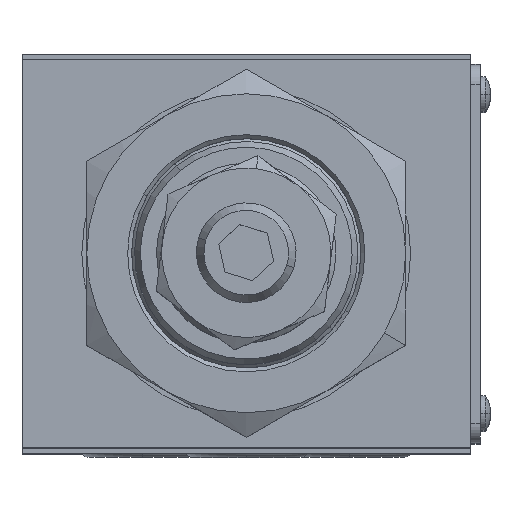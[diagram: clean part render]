
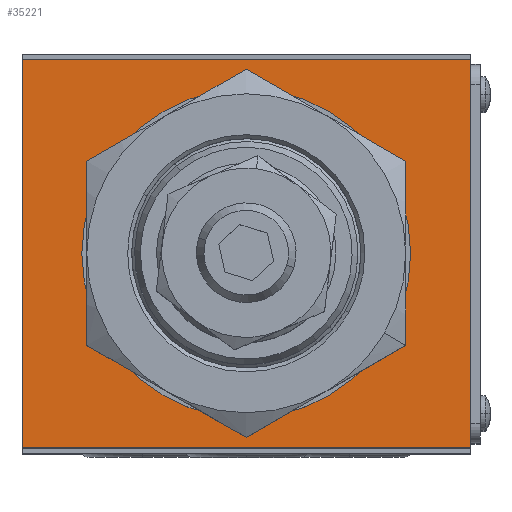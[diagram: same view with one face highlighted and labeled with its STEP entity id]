
A CAD part, top view. The second image highlights one B-rep face of the part: STEP entity #35221.
In plain terms, the highlighted planar face has unit normal (0, 0, 1).
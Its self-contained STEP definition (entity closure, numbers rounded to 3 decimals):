
#1095 = FACE_BOUND ( 'NONE', #78293, .T. ) ;
#3728 = VECTOR ( 'NONE', #49625, 1000. ) ;
#3929 = VERTEX_POINT ( 'NONE', #67687 ) ;
#10211 = CARTESIAN_POINT ( 'NONE',  ( -22.5, -19.5, 47.5 ) ) ;
#10319 = VERTEX_POINT ( 'NONE', #33034 ) ;
#14852 = ORIENTED_EDGE ( 'NONE', *, *, #62344, .F. ) ;
#15519 = CARTESIAN_POINT ( 'NONE',  ( -22.5, 20., 47.5 ) ) ;
#16518 = CIRCLE ( 'NONE', #54771, 16.5 ) ;
#16586 = VECTOR ( 'NONE', #66429, 1000. ) ;
#17496 = DIRECTION ( 'NONE',  ( -1., 0., 0. ) ) ;
#20151 = VERTEX_POINT ( 'NONE', #66782 ) ;
#20324 = CARTESIAN_POINT ( 'NONE',  ( 0., 0., 47.5 ) ) ;
#21276 = VECTOR ( 'NONE', #53079, 1000. ) ;
#21343 = CIRCLE ( 'NONE', #30100, 16.5 ) ;
#22808 = EDGE_CURVE ( 'NONE', #20151, #56552, #72347, .T. ) ;
#23614 = LINE ( 'NONE', #81984, #21276 ) ;
#25506 = DIRECTION ( 'NONE',  ( 0., 0., 1. ) ) ;
#27634 = PLANE ( 'NONE',  #92997 ) ;
#27654 = DIRECTION ( 'NONE',  ( 1., 0., 0. ) ) ;
#28014 = CARTESIAN_POINT ( 'NONE',  ( -22.5, 19.5, 47.5 ) ) ;
#30100 = AXIS2_PLACEMENT_3D ( 'NONE', #69085, #25506, #76421 ) ;
#33034 = CARTESIAN_POINT ( 'NONE',  ( 22.5, -19.5, 47.5 ) ) ;
#34724 = CARTESIAN_POINT ( 'NONE',  ( 16.5, 0., 47.5 ) ) ;
#34968 = CARTESIAN_POINT ( 'NONE',  ( -22.5, -20., 47.5 ) ) ;
#35221 = ADVANCED_FACE ( 'NONE', ( #1095, #56883 ), #27634, .T. ) ;
#39413 = LINE ( 'NONE', #10211, #75837 ) ;
#40585 = EDGE_CURVE ( 'NONE', #20151, #3929, #78863, .T. ) ;
#42260 = DIRECTION ( 'NONE',  ( 1., 0., 0. ) ) ;
#46549 = ORIENTED_EDGE ( 'NONE', *, *, #87731, .F. ) ;
#49625 = DIRECTION ( 'NONE',  ( 1., 0., 0. ) ) ;
#52538 = ORIENTED_EDGE ( 'NONE', *, *, #84923, .T. ) ;
#53079 = DIRECTION ( 'NONE',  ( 0., 1., 0. ) ) ;
#53857 = ORIENTED_EDGE ( 'NONE', *, *, #84077, .F. ) ;
#54771 = AXIS2_PLACEMENT_3D ( 'NONE', #20324, #71227, #27654 ) ;
#54901 = CARTESIAN_POINT ( 'NONE',  ( -16.5, 0., 47.5 ) ) ;
#56552 = VERTEX_POINT ( 'NONE', #81584 ) ;
#56883 = FACE_OUTER_BOUND ( 'NONE', #62651, .T. ) ;
#62344 = EDGE_CURVE ( 'NONE', #10319, #56552, #39413, .T. ) ;
#62651 = EDGE_LOOP ( 'NONE', ( #14852, #52538, #79767, #87897 ) ) ;
#63189 = VERTEX_POINT ( 'NONE', #34724 ) ;
#66429 = DIRECTION ( 'NONE',  ( 0., -1., 0. ) ) ;
#66782 = CARTESIAN_POINT ( 'NONE',  ( -22.5, 19.5, 47.5 ) ) ;
#67687 = CARTESIAN_POINT ( 'NONE',  ( 22.5, 19.5, 47.5 ) ) ;
#69085 = CARTESIAN_POINT ( 'NONE',  ( 0., 0., 47.5 ) ) ;
#71213 = DIRECTION ( 'NONE',  ( 0., 0., 1. ) ) ;
#71227 = DIRECTION ( 'NONE',  ( 0., 0., 1. ) ) ;
#72347 = LINE ( 'NONE', #15519, #16586 ) ;
#72925 = VERTEX_POINT ( 'NONE', #54901 ) ;
#75837 = VECTOR ( 'NONE', #17496, 1000. ) ;
#76421 = DIRECTION ( 'NONE',  ( 1., 0., 0. ) ) ;
#78293 = EDGE_LOOP ( 'NONE', ( #53857, #46549 ) ) ;
#78863 = LINE ( 'NONE', #28014, #3728 ) ;
#79767 = ORIENTED_EDGE ( 'NONE', *, *, #40585, .F. ) ;
#81584 = CARTESIAN_POINT ( 'NONE',  ( -22.5, -19.5, 47.5 ) ) ;
#81984 = CARTESIAN_POINT ( 'NONE',  ( 22.5, 20., 47.5 ) ) ;
#84077 = EDGE_CURVE ( 'NONE', #63189, #72925, #21343, .T. ) ;
#84923 = EDGE_CURVE ( 'NONE', #10319, #3929, #23614, .T. ) ;
#87731 = EDGE_CURVE ( 'NONE', #72925, #63189, #16518, .T. ) ;
#87897 = ORIENTED_EDGE ( 'NONE', *, *, #22808, .T. ) ;
#92997 = AXIS2_PLACEMENT_3D ( 'NONE', #34968, #71213, #42260 ) ;
